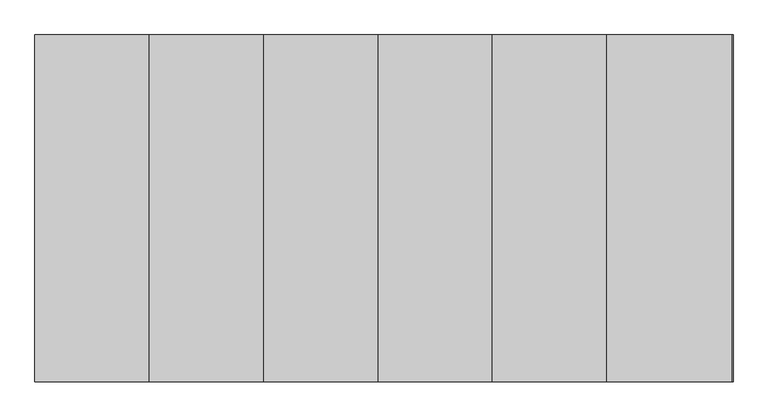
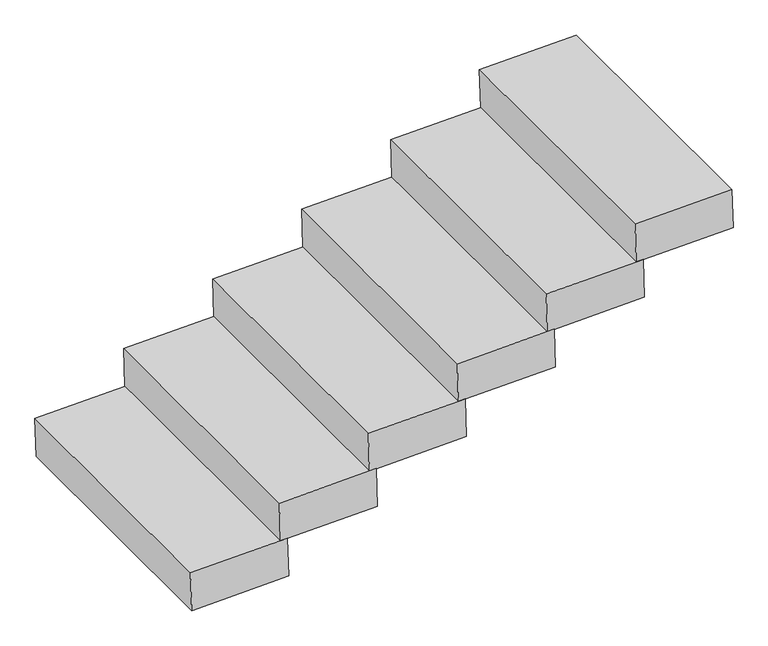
"""IFC4 building model written with IfcOpenShell, lengths in millimetres: stair flight geometry, Blockstufe - vollkantig - B 36cm, H 15cm."""

from ifc_helpers import new_model, si_unit, frame, origin, place, context, project, spatial, polyline, outline, extrude, source, transform, mapped, element, save


def stair_flight_c193be0b(model_context):
    return source(origin(), model_context, "Body", "SweptSolid", [
        extrude(outline(polyline([(0.0, -360.0), (0.0, 0.0), (1000.0, 0.0), (1000.0, -360.0), (0.0, -360.0)])), frame((93.9710847, -3825.8978657, 43.2), z_axis=(-0.02792163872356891, 0.0, 0.9996101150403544), x_axis=(0.0, 1.0, 0.0)), (0.0, 0.0, 1.0), 150.0),
        extrude(outline(polyline([(0.0, -360.0), (0.0, 0.0), (1000.0, 0.0), (1000.0, -360.0), (0.0, -360.0)])), frame((423.9710847, -3825.8978657, 201.4), z_axis=(-0.02792163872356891, 0.0, 0.9996101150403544), x_axis=(0.0, 1.0, 0.0)), (0.0, 0.0, 1.0), 150.0),
        extrude(outline(polyline([(0.0, -360.0), (0.0, 0.0), (1000.0, 0.0), (1000.0, -360.0), (0.0, -360.0)])), frame((753.9710847, -3825.8978657, 359.6), z_axis=(-0.02792163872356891, 0.0, 0.9996101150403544), x_axis=(0.0, 1.0, 0.0)), (0.0, 0.0, 1.0), 150.0),
        extrude(outline(polyline([(0.0, -360.0), (0.0, 0.0), (1000.0, 0.0), (1000.0, -360.0), (0.0, -360.0)])), frame((1083.9710847, -3825.8978657, 517.8), z_axis=(-0.02792163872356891, 0.0, 0.9996101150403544), x_axis=(0.0, 1.0, 0.0)), (0.0, 0.0, 1.0), 150.0),
        extrude(outline(polyline([(0.0, -360.0), (0.0, 0.0), (1000.0, 0.0), (1000.0, -360.0), (0.0, -360.0)])), frame((1413.9710847, -3825.8978657, 676.0), z_axis=(-0.02792163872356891, 0.0, 0.9996101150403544), x_axis=(0.0, 1.0, 0.0)), (0.0, 0.0, 1.0), 150.0),
        extrude(outline(polyline([(0.0, -360.0), (0.0, 0.0), (1000.0, 0.0), (1000.0, -360.0), (0.0, -360.0)])), frame((1743.9710847, -3825.8978657, 834.2), z_axis=(-0.02792163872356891, 0.0, 0.9996101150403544), x_axis=(0.0, 1.0, 0.0)), (0.0, 0.0, 1.0), 150.0),
    ])


if __name__ == "__main__":
    model = new_model("IFC4")
    model_context = context("Model", 3, world=origin())
    ifc_project = project(units=[si_unit("LENGTHUNIT", "METRE", prefix="MILLI")], contexts=[model_context])
    site = spatial("IfcSite", under=ifc_project)
    building = spatial("IfcBuilding", under=site)
    placement = place(None, origin())
    stair_flight_shape = stair_flight_c193be0b(model_context)
    element("IfcStairFlight", 1, ObjectType="Blockstufe - vollkantig - B 36cm, H 15cm", at=placement, inside=building, context=model_context, shape_type="MappedRepresentation", body=[
        mapped(stair_flight_shape, transform((0.0, 0.0, 0.0), x_axis=(1.0, 0.0, 0.0), y_axis=(0.0, 1.0, 0.0), z_axis=(0.0, 0.0, 1.0))),
    ])
    save(model, "model.ifc")
